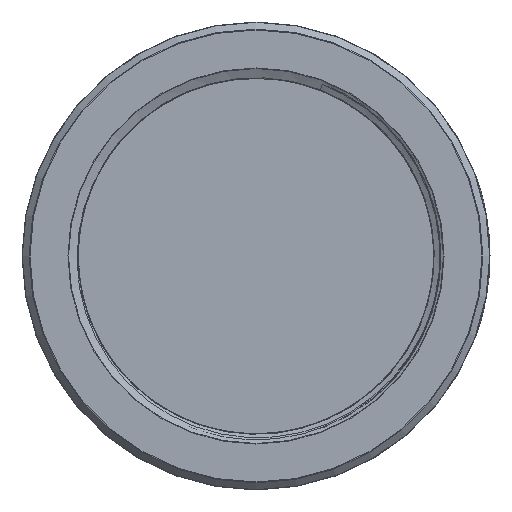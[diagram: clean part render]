
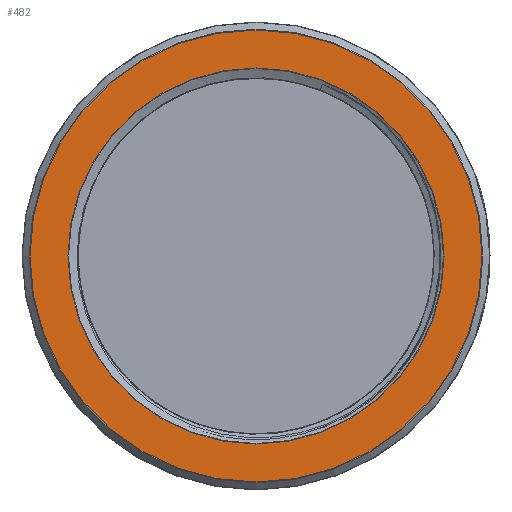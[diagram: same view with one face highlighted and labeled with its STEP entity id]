
A CAD part, left-side view. The second image highlights one B-rep face of the part: STEP entity #482.
In plain terms, the highlighted planar face has unit normal (-1, 0, 0).
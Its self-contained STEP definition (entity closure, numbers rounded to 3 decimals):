
#482 = ADVANCED_FACE( '', ( #1067, #1068 ), #1069, .T. );
#1067 = FACE_OUTER_BOUND( '', #16034, .T. );
#1068 = FACE_BOUND( '', #16035, .T. );
#1069 = PLANE( '', #16036 );
#16034 = EDGE_LOOP( '', ( #24298 ) );
#16035 = EDGE_LOOP( '', ( #24299 ) );
#16036 = AXIS2_PLACEMENT_3D( '', #24300, #24301, #24302 );
#24298 = ORIENTED_EDGE( '', *, *, #24974, .T. );
#24299 = ORIENTED_EDGE( '', *, *, #25070, .T. );
#24300 = CARTESIAN_POINT( '', ( 0., 0., 0. ) );
#24301 = DIRECTION( '', ( -1., 0., 0. ) );
#24302 = DIRECTION( '', ( 0., -1., 0. ) );
#24974 = EDGE_CURVE( '', #25782, #25782, #25783, .T. );
#25070 = EDGE_CURVE( '', #25945, #25945, #25946, .F. );
#25782 = VERTEX_POINT( '', #34734 );
#25783 = CIRCLE( '', #34735, 45.996 );
#25945 = VERTEX_POINT( '', #35105 );
#25946 = CIRCLE( '', #35106, 38.274 );
#34734 = CARTESIAN_POINT( '', ( 0., -45.996, 0. ) );
#34735 = AXIS2_PLACEMENT_3D( '', #60776, #60777, #60778 );
#35105 = CARTESIAN_POINT( '', ( 0., -38.274, 0. ) );
#35106 = AXIS2_PLACEMENT_3D( '', #60871, #60872, #60873 );
#60776 = CARTESIAN_POINT( '', ( 0., 0., 0. ) );
#60777 = DIRECTION( '', ( -1., 0., 0. ) );
#60778 = DIRECTION( '', ( 0., -1., 0. ) );
#60871 = CARTESIAN_POINT( '', ( 0., 0., 0. ) );
#60872 = DIRECTION( '', ( -1., 0., 0. ) );
#60873 = DIRECTION( '', ( 0., -1., 0. ) );
